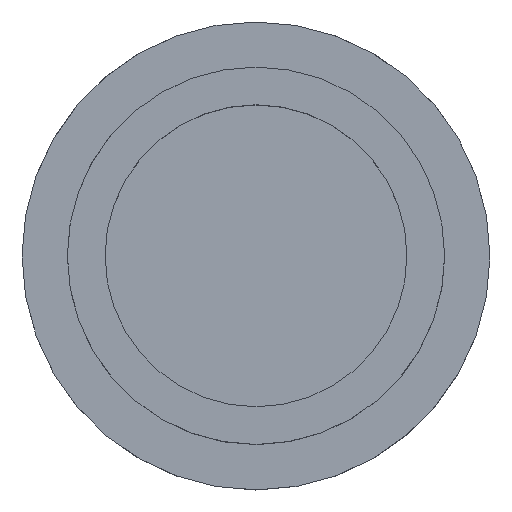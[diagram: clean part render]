
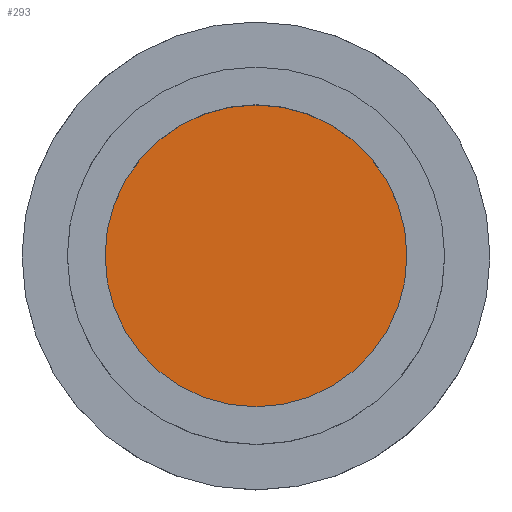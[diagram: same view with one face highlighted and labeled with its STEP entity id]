
A CAD part, top view. The second image highlights one B-rep face of the part: STEP entity #293.
In plain terms, the highlighted planar face has unit normal (0, 0, 1).
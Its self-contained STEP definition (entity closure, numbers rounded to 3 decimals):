
#77=AXIS2_PLACEMENT_3D('Plane Axis2P3D',#74,#75,#76) ;
#253=AXIS2_PLACEMENT_3D('Circle Axis2P3D',#251,#252,$) ;
#279=AXIS2_PLACEMENT_3D('Circle Axis2P3D',#277,#278,$) ;
#74=CARTESIAN_POINT('Axis2P3D Location',(0.,0.,5.)) ;
#251=CARTESIAN_POINT('Axis2P3D Location',(0.,0.,5.)) ;
#255=CARTESIAN_POINT('Vertex',(20.,0.,5.)) ;
#257=CARTESIAN_POINT('Vertex',(-20.,0.,5.)) ;
#277=CARTESIAN_POINT('Axis2P3D Location',(0.,0.,5.)) ;
#75=DIRECTION('Axis2P3D Direction',(0.,0.,1.)) ;
#76=DIRECTION('Axis2P3D XDirection',(1.,0.,0.)) ;
#252=DIRECTION('Axis2P3D Direction',(0.,0.,1.)) ;
#278=DIRECTION('Axis2P3D Direction',(0.,0.,1.)) ;
#290=ORIENTED_EDGE('',*,*,#281,.T.) ;
#291=ORIENTED_EDGE('',*,*,#259,.T.) ;
#293=ADVANCED_FACE('\X2\96F64EF651E04F554F53\X0\',(#292),#78,.T.) ;
#254=CIRCLE('generated circle',#253,20.) ;
#280=CIRCLE('generated circle',#279,20.) ;
#259=EDGE_CURVE('',#256,#258,#254,.T.) ;
#281=EDGE_CURVE('',#258,#256,#280,.T.) ;
#289=EDGE_LOOP('',(#290,#291)) ;
#292=FACE_OUTER_BOUND('',#289,.T.) ;
#78=PLANE('',#77) ;
#256=VERTEX_POINT('',#255) ;
#258=VERTEX_POINT('',#257) ;
